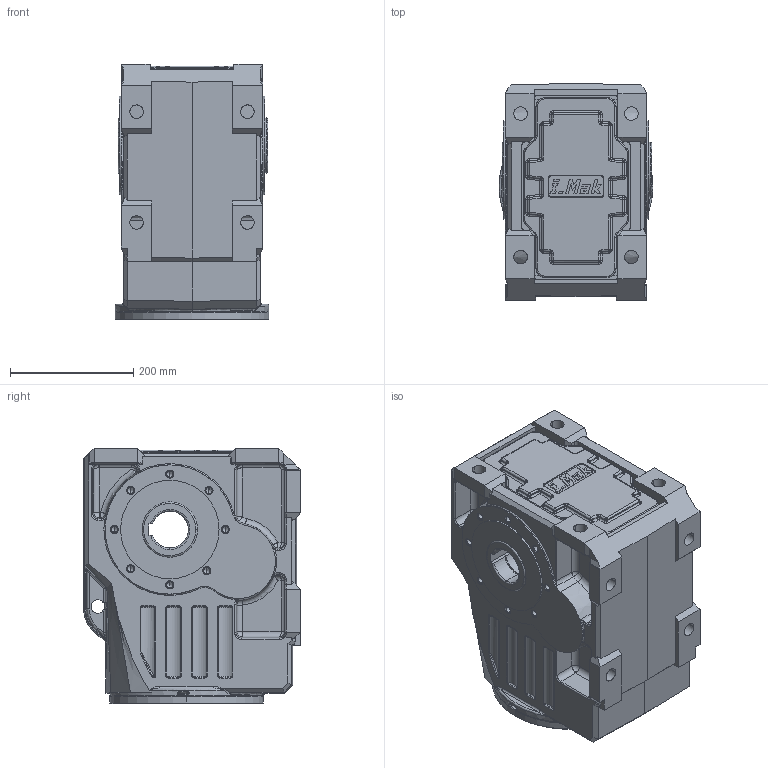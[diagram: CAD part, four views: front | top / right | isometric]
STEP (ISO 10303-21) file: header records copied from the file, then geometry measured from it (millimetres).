
FILE_DESCRIPTION (( 'STEP AP203' ), '1' );
FILE_NAME ('IRK 93.step', '2026-01-26T05:36:15', ( '' ), ( '' ), 'SwSTEP 2.0', 'SolidWorks 2024', '' );
FILE_SCHEMA (( 'CONFIG_CONTROL_DESIGN' ));
Length unit declared in the file: millimetre
Products named in the file (3): Şase_Ø250; IRK 93; IRK 93-_IRK 93
Assembly tree (2 placements, depth 2):
  IRK 93
    Şase_Ø250
    IRK 93-_IRK 93
Bounding box: 250 x 351.94 x 415 mm (x, y, z)
Volume: 26564318.5 mm3; surface area: 871777 mm2
Topology: 2 solids, 2 shells, 1193 faces, 2947 edges, 1728 vertices
Faces by surface type: cylinder 414, plane 323, bspline 241, cone 85, torus 72, sphere 58
Entity records: 73263 total; most frequent: CARTESIAN_POINT 47821, ORIENTED_EDGE 5748, DIRECTION 4384, EDGE_CURVE 2874, VERTEX_POINT 1722, AXIS2_PLACEMENT_3D 1540, VECTOR 1304, LINE 1304
